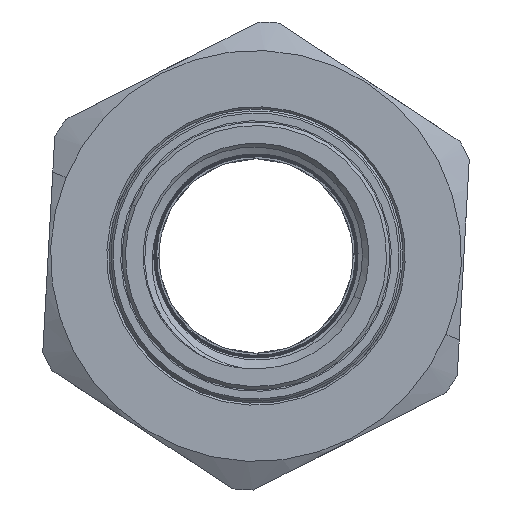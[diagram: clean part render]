
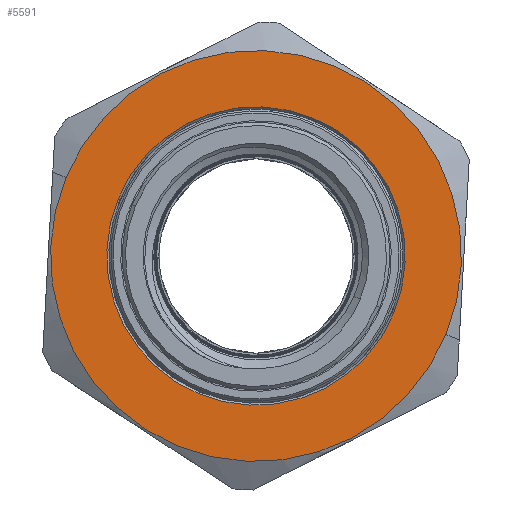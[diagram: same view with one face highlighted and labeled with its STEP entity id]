
A CAD part, left-side view. The second image highlights one B-rep face of the part: STEP entity #5591.
In plain terms, the highlighted planar face has unit normal (-1, 0, 0).
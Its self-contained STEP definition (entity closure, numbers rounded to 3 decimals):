
#51 = VERTEX_POINT('',#52);
#52 = CARTESIAN_POINT('',(-172.837,2.696,-15.536
    ));
#59 = CONICAL_SURFACE('',#60,0.867,0.785);
#60 = AXIS2_PLACEMENT_3D('',#61,#62,#63);
#61 = CARTESIAN_POINT('',(-172.837,1.895,-15.867
    ));
#62 = DIRECTION('',(-1.,0.,0.));
#63 = DIRECTION('',(0.,0.924,0.382));
#71 = CONICAL_SURFACE('',#72,0.867,0.785);
#72 = AXIS2_PLACEMENT_3D('',#73,#74,#75);
#73 = CARTESIAN_POINT('',(-172.837,1.895,-15.867
    ));
#74 = DIRECTION('',(-1.,0.,0.));
#75 = DIRECTION('',(0.,0.924,0.382));
#83 = EDGE_CURVE('',#51,#84,#86,.T.);
#84 = VERTEX_POINT('',#85);
#85 = CARTESIAN_POINT('',(-172.837,1.093,-16.198
    ));
#86 = SURFACE_CURVE('',#87,(#92,#99),.PCURVE_S1.);
#87 = CIRCLE('',#88,0.867);
#88 = AXIS2_PLACEMENT_3D('',#89,#90,#91);
#89 = CARTESIAN_POINT('',(-172.837,1.895,-15.867
    ));
#90 = DIRECTION('',(1.,0.,0.));
#91 = DIRECTION('',(0.,-0.924,-0.382));
#92 = PCURVE('',#59,#93);
#93 = DEFINITIONAL_REPRESENTATION('',(#94),#98);
#94 = LINE('',#95,#96);
#95 = CARTESIAN_POINT('',(9.425,0.));
#96 = VECTOR('',#97,1.);
#97 = DIRECTION('',(-1.,0.));
#98 = ( GEOMETRIC_REPRESENTATION_CONTEXT(2) 
PARAMETRIC_REPRESENTATION_CONTEXT() REPRESENTATION_CONTEXT('2D SPACE',''
  ) );
#99 = PCURVE('',#100,#105);
#100 = PLANE('',#101);
#101 = AXIS2_PLACEMENT_3D('',#102,#103,#104);
#102 = CARTESIAN_POINT('',(-172.837,2.221,
    -16.657));
#103 = DIRECTION('',(1.,0.,0.));
#104 = DIRECTION('',(0.,-0.924,-0.382));
#105 = DEFINITIONAL_REPRESENTATION('',(#106),#110);
#106 = CIRCLE('',#107,0.867);
#107 = AXIS2_PLACEMENT_2D('',#108,#109);
#108 = CARTESIAN_POINT('',(0.,-0.855));
#109 = DIRECTION('',(1.,0.));
#110 = ( GEOMETRIC_REPRESENTATION_CONTEXT(2) 
PARAMETRIC_REPRESENTATION_CONTEXT() REPRESENTATION_CONTEXT('2D SPACE',''
  ) );
#648 = EDGE_CURVE('',#649,#651,#653,.T.);
#649 = VERTEX_POINT('',#650);
#650 = CARTESIAN_POINT('',(-172.837,0.791,
    -16.323));
#651 = VERTEX_POINT('',#652);
#652 = CARTESIAN_POINT('',(-172.837,2.998,
    -15.411));
#653 = SURFACE_CURVE('',#654,(#659,#671),.PCURVE_S1.);
#654 = CIRCLE('',#655,1.194);
#655 = AXIS2_PLACEMENT_3D('',#656,#657,#658);
#656 = CARTESIAN_POINT('',(-172.837,1.895,
    -15.867));
#657 = DIRECTION('',(1.,0.,0.));
#658 = DIRECTION('',(0.,-0.924,-0.382));
#659 = PCURVE('',#660,#665);
#660 = CONICAL_SURFACE('',#661,1.576,1.047);
#661 = AXIS2_PLACEMENT_3D('',#662,#663,#664);
#662 = CARTESIAN_POINT('',(-172.616,1.895,
    -15.867));
#663 = DIRECTION('',(1.,0.,0.));
#664 = DIRECTION('',(0.,-0.924,-0.382));
#665 = DEFINITIONAL_REPRESENTATION('',(#666),#670);
#666 = LINE('',#667,#668);
#667 = CARTESIAN_POINT('',(0.,-0.221));
#668 = VECTOR('',#669,1.);
#669 = DIRECTION('',(1.,0.));
#670 = ( GEOMETRIC_REPRESENTATION_CONTEXT(2) 
PARAMETRIC_REPRESENTATION_CONTEXT() REPRESENTATION_CONTEXT('2D SPACE',''
  ) );
#671 = PCURVE('',#100,#672);
#672 = DEFINITIONAL_REPRESENTATION('',(#673),#677);
#673 = CIRCLE('',#674,1.194);
#674 = AXIS2_PLACEMENT_2D('',#675,#676);
#675 = CARTESIAN_POINT('',(0.,-0.855));
#676 = DIRECTION('',(1.,0.));
#677 = ( GEOMETRIC_REPRESENTATION_CONTEXT(2) 
PARAMETRIC_REPRESENTATION_CONTEXT() REPRESENTATION_CONTEXT('2D SPACE',''
  ) );
#695 = CONICAL_SURFACE('',#696,1.576,1.047);
#696 = AXIS2_PLACEMENT_3D('',#697,#698,#699);
#697 = CARTESIAN_POINT('',(-172.616,1.895,
    -15.867));
#698 = DIRECTION('',(1.,0.,0.));
#699 = DIRECTION('',(0.,-0.924,-0.382));
#5591 = ADVANCED_FACE('',(#5592,#5617),#100,.F.);
#5592 = FACE_BOUND('',#5593,.T.);
#5593 = EDGE_LOOP('',(#5594,#5595));
#5594 = ORIENTED_EDGE('',*,*,#83,.T.);
#5595 = ORIENTED_EDGE('',*,*,#5596,.T.);
#5596 = EDGE_CURVE('',#84,#51,#5597,.T.);
#5597 = SURFACE_CURVE('',#5598,(#5603,#5610),.PCURVE_S1.);
#5598 = CIRCLE('',#5599,0.867);
#5599 = AXIS2_PLACEMENT_3D('',#5600,#5601,#5602);
#5600 = CARTESIAN_POINT('',(-172.837,1.895,
    -15.867));
#5601 = DIRECTION('',(1.,0.,0.));
#5602 = DIRECTION('',(0.,-0.924,-0.382));
#5603 = PCURVE('',#100,#5604);
#5604 = DEFINITIONAL_REPRESENTATION('',(#5605),#5609);
#5605 = CIRCLE('',#5606,0.867);
#5606 = AXIS2_PLACEMENT_2D('',#5607,#5608);
#5607 = CARTESIAN_POINT('',(0.,-0.855));
#5608 = DIRECTION('',(1.,0.));
#5609 = ( GEOMETRIC_REPRESENTATION_CONTEXT(2) 
PARAMETRIC_REPRESENTATION_CONTEXT() REPRESENTATION_CONTEXT('2D SPACE',''
  ) );
#5610 = PCURVE('',#71,#5611);
#5611 = DEFINITIONAL_REPRESENTATION('',(#5612),#5616);
#5612 = LINE('',#5613,#5614);
#5613 = CARTESIAN_POINT('',(3.142,0.));
#5614 = VECTOR('',#5615,1.);
#5615 = DIRECTION('',(-1.,0.));
#5616 = ( GEOMETRIC_REPRESENTATION_CONTEXT(2) 
PARAMETRIC_REPRESENTATION_CONTEXT() REPRESENTATION_CONTEXT('2D SPACE',''
  ) );
#5617 = FACE_BOUND('',#5618,.T.);
#5618 = EDGE_LOOP('',(#5619,#5620));
#5619 = ORIENTED_EDGE('',*,*,#648,.F.);
#5620 = ORIENTED_EDGE('',*,*,#5621,.F.);
#5621 = EDGE_CURVE('',#651,#649,#5622,.T.);
#5622 = SURFACE_CURVE('',#5623,(#5628,#5635),.PCURVE_S1.);
#5623 = CIRCLE('',#5624,1.194);
#5624 = AXIS2_PLACEMENT_3D('',#5625,#5626,#5627);
#5625 = CARTESIAN_POINT('',(-172.837,1.895,
    -15.867));
#5626 = DIRECTION('',(1.,0.,0.));
#5627 = DIRECTION('',(0.,-0.924,-0.382));
#5628 = PCURVE('',#100,#5629);
#5629 = DEFINITIONAL_REPRESENTATION('',(#5630),#5634);
#5630 = CIRCLE('',#5631,1.194);
#5631 = AXIS2_PLACEMENT_2D('',#5632,#5633);
#5632 = CARTESIAN_POINT('',(0.,-0.855));
#5633 = DIRECTION('',(1.,0.));
#5634 = ( GEOMETRIC_REPRESENTATION_CONTEXT(2) 
PARAMETRIC_REPRESENTATION_CONTEXT() REPRESENTATION_CONTEXT('2D SPACE',''
  ) );
#5635 = PCURVE('',#695,#5636);
#5636 = DEFINITIONAL_REPRESENTATION('',(#5637),#5641);
#5637 = LINE('',#5638,#5639);
#5638 = CARTESIAN_POINT('',(0.,-0.221));
#5639 = VECTOR('',#5640,1.);
#5640 = DIRECTION('',(1.,0.));
#5641 = ( GEOMETRIC_REPRESENTATION_CONTEXT(2) 
PARAMETRIC_REPRESENTATION_CONTEXT() REPRESENTATION_CONTEXT('2D SPACE',''
  ) );
